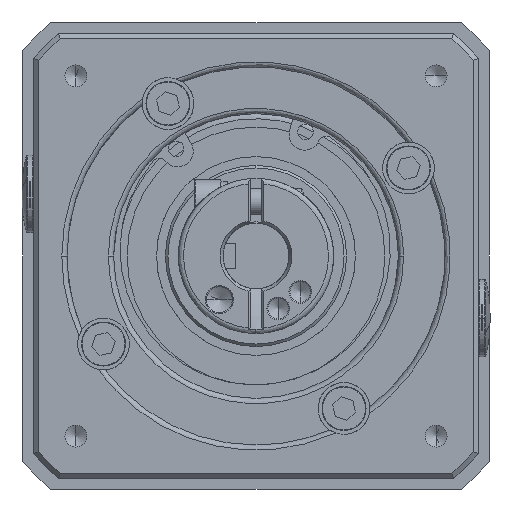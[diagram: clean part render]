
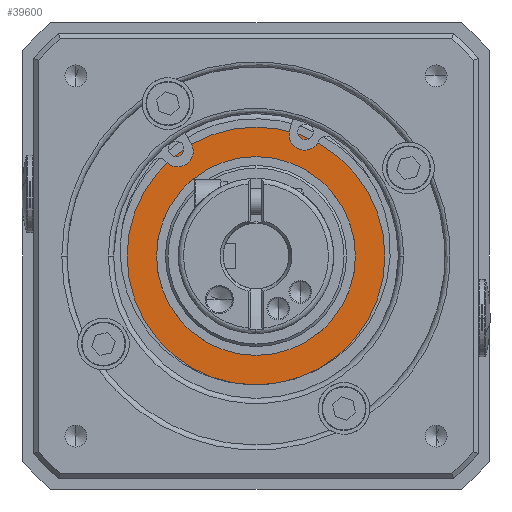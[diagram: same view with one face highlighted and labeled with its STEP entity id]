
A CAD part, front view. The second image highlights one B-rep face of the part: STEP entity #39600.
In plain terms, the highlighted planar face has unit normal (0, -1, 0).
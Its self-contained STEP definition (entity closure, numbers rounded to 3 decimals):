
#1807 = AXIS2_PLACEMENT_3D ( 'NONE', #2013, #55760, #35855 ) ;
#2013 = CARTESIAN_POINT ( 'NONE',  ( -105.039, -87.96, 45. ) ) ;
#3766 = AXIS2_PLACEMENT_3D ( 'NONE', #39328, #53867, #10576 ) ;
#4136 = DIRECTION ( 'NONE',  ( 0., 0., -1. ) ) ;
#6565 = CIRCLE ( 'NONE', #23802, 19.2 ) ;
#7849 = AXIS2_PLACEMENT_3D ( 'NONE', #51513, #8206, #46784 ) ;
#8206 = DIRECTION ( 'NONE',  ( 0., 1., 0. ) ) ;
#8583 = ORIENTED_EDGE ( 'NONE', *, *, #52788, .T. ) ;
#8903 = CARTESIAN_POINT ( 'NONE',  ( -104.236, -87.96, 19.863 ) ) ;
#9785 = CARTESIAN_POINT ( 'NONE',  ( -105.039, -87.96, 45. ) ) ;
#10576 = DIRECTION ( 'NONE',  ( 0., 0., -1. ) ) ;
#11408 = EDGE_CURVE ( 'NONE', #37706, #60957, #62306, .T. ) ;
#12970 = VERTEX_POINT ( 'NONE', #21775 ) ;
#16046 = AXIS2_PLACEMENT_3D ( 'NONE', #8903, #28224, #4136 ) ;
#16221 = ORIENTED_EDGE ( 'NONE', *, *, #62006, .T. ) ;
#21775 = CARTESIAN_POINT ( 'NONE',  ( -105.039, -87.96, 64.2 ) ) ;
#23802 = AXIS2_PLACEMENT_3D ( 'NONE', #9785, #29098, #48343 ) ;
#26085 = CIRCLE ( 'NONE', #7849, 19.2 ) ;
#27601 = ORIENTED_EDGE ( 'NONE', *, *, #45779, .T. ) ;
#28147 = CIRCLE ( 'NONE', #1807, 25.15 ) ;
#28224 = DIRECTION ( 'NONE',  ( 0., -1., 0. ) ) ;
#29098 = DIRECTION ( 'NONE',  ( 0., 1., 0. ) ) ;
#32306 = ORIENTED_EDGE ( 'NONE', *, *, #11408, .T. ) ;
#35718 = CARTESIAN_POINT ( 'NONE',  ( -105.039, -87.96, 70.15 ) ) ;
#35855 = DIRECTION ( 'NONE',  ( 0., 0., -1. ) ) ;
#37353 = FACE_BOUND ( 'NONE', #37864, .T. ) ;
#37706 = VERTEX_POINT ( 'NONE', #46865 ) ;
#37864 = EDGE_LOOP ( 'NONE', ( #16221, #8583 ) ) ;
#39328 = CARTESIAN_POINT ( 'NONE',  ( -105.039, -87.96, 45. ) ) ;
#39600 = ADVANCED_FACE ( 'NONE', ( #37353, #51567 ), #56617, .T. ) ;
#41760 = EDGE_LOOP ( 'NONE', ( #32306, #27601 ) ) ;
#45696 = CARTESIAN_POINT ( 'NONE',  ( -105.039, -87.96, 25.8 ) ) ;
#45779 = EDGE_CURVE ( 'NONE', #60957, #37706, #28147, .T. ) ;
#46784 = DIRECTION ( 'NONE',  ( 0., 0., -1. ) ) ;
#46865 = CARTESIAN_POINT ( 'NONE',  ( -105.039, -87.96, 19.85 ) ) ;
#48343 = DIRECTION ( 'NONE',  ( 0., 0., -1. ) ) ;
#51513 = CARTESIAN_POINT ( 'NONE',  ( -105.039, -87.96, 45. ) ) ;
#51567 = FACE_OUTER_BOUND ( 'NONE', #41760, .T. ) ;
#52788 = EDGE_CURVE ( 'NONE', #12970, #61003, #26085, .T. ) ;
#53867 = DIRECTION ( 'NONE',  ( 0., -1., 0. ) ) ;
#55760 = DIRECTION ( 'NONE',  ( 0., -1., 0. ) ) ;
#56617 = PLANE ( 'NONE',  #16046 ) ;
#60957 = VERTEX_POINT ( 'NONE', #35718 ) ;
#61003 = VERTEX_POINT ( 'NONE', #45696 ) ;
#62006 = EDGE_CURVE ( 'NONE', #61003, #12970, #6565, .T. ) ;
#62306 = CIRCLE ( 'NONE', #3766, 25.15 ) ;
